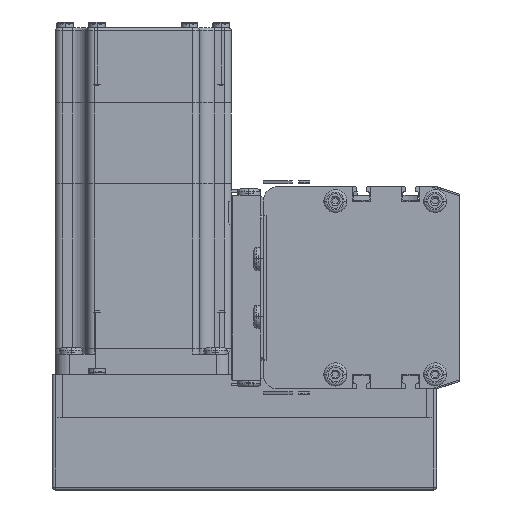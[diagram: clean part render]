
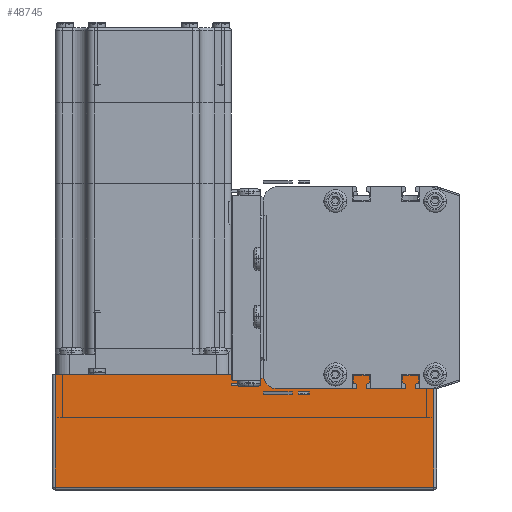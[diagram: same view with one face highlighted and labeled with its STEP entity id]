
A CAD part, left-side view. The second image highlights one B-rep face of the part: STEP entity #48745.
In plain terms, the highlighted planar face has unit normal (-1, 0, 0) as drawn and (0, 1, 0) by its records, which use the part's own axes.
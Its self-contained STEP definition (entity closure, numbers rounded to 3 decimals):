
#10756 = CARTESIAN_POINT ( 'NONE',  ( 132., 62., 0. ) ) ;
#10868 = CARTESIAN_POINT ( 'NONE',  ( 1., 62., 0. ) ) ;
#10897 = DIRECTION ( 'NONE',  ( -1., 0., 0. ) ) ;
#10899 = VECTOR ( 'NONE', #10897, 1000. ) ;
#10904 = CARTESIAN_POINT ( 'NONE',  ( 0., 62., 0. ) ) ;
#10906 = LINE ( 'NONE', #10904, #10899 ) ;
#11002 = CARTESIAN_POINT ( 'NONE',  ( 132., 62., 39. ) ) ;
#11006 = FACE_OUTER_BOUND ( 'NONE', #48799, .T. ) ;
#11061 = DIRECTION ( 'NONE',  ( 0., 0., -1. ) ) ;
#11062 = VECTOR ( 'NONE', #11061, 1000. ) ;
#11064 = CARTESIAN_POINT ( 'NONE',  ( 132., 62., 40. ) ) ;
#11070 = DIRECTION ( 'NONE',  ( 0., 0., -1. ) ) ;
#11071 = LINE ( 'NONE', #11064, #11062 ) ;
#11074 = DIRECTION ( 'NONE',  ( 0., -1., 0. ) ) ;
#11082 = DIRECTION ( 'NONE',  ( 0., 0., 1. ) ) ;
#11083 = VECTOR ( 'NONE', #11082, 1000. ) ;
#11085 = CARTESIAN_POINT ( 'NONE',  ( 1., 62., 40. ) ) ;
#11089 = CARTESIAN_POINT ( 'NONE',  ( 0., 62., 40. ) ) ;
#11090 = LINE ( 'NONE', #11085, #11083 ) ;
#11092 = PLANE ( 'NONE',  #11107 ) ;
#11107 = AXIS2_PLACEMENT_3D ( 'NONE', #11089, #11074, #11070 ) ;
#11148 = DIRECTION ( 'NONE',  ( 1., 0., 0. ) ) ;
#11158 = CARTESIAN_POINT ( 'NONE',  ( 1., 62., 39. ) ) ;
#11160 = CARTESIAN_POINT ( 'NONE',  ( 0., 62., 39. ) ) ;
#11161 = LINE ( 'NONE', #11160, #11170 ) ;
#11170 = VECTOR ( 'NONE', #11148, 1000. ) ;
#48597 = VERTEX_POINT ( 'NONE', #10756 ) ;
#48606 = VERTEX_POINT ( 'NONE', #10868 ) ;
#48687 = EDGE_CURVE ( 'NONE', #48597, #48606, #10906, .T. ) ;
#48733 = EDGE_CURVE ( 'NONE', #48606, #48764, #11090, .T. ) ;
#48739 = ORIENTED_EDGE ( 'NONE', *, *, #48769, .T. ) ;
#48745 = ADVANCED_FACE ( 'NONE', ( #11006 ), #11092, .F. ) ;
#48747 = EDGE_CURVE ( 'NONE', #48752, #48597, #11071, .T. ) ;
#48752 = VERTEX_POINT ( 'NONE', #11002 ) ;
#48764 = VERTEX_POINT ( 'NONE', #11158 ) ;
#48769 = EDGE_CURVE ( 'NONE', #48764, #48752, #11161, .T. ) ;
#48799 = EDGE_LOOP ( 'NONE', ( #48739, #48862, #48868, #48866 ) ) ;
#48862 = ORIENTED_EDGE ( 'NONE', *, *, #48747, .T. ) ;
#48866 = ORIENTED_EDGE ( 'NONE', *, *, #48733, .T. ) ;
#48868 = ORIENTED_EDGE ( 'NONE', *, *, #48687, .T. ) ;
